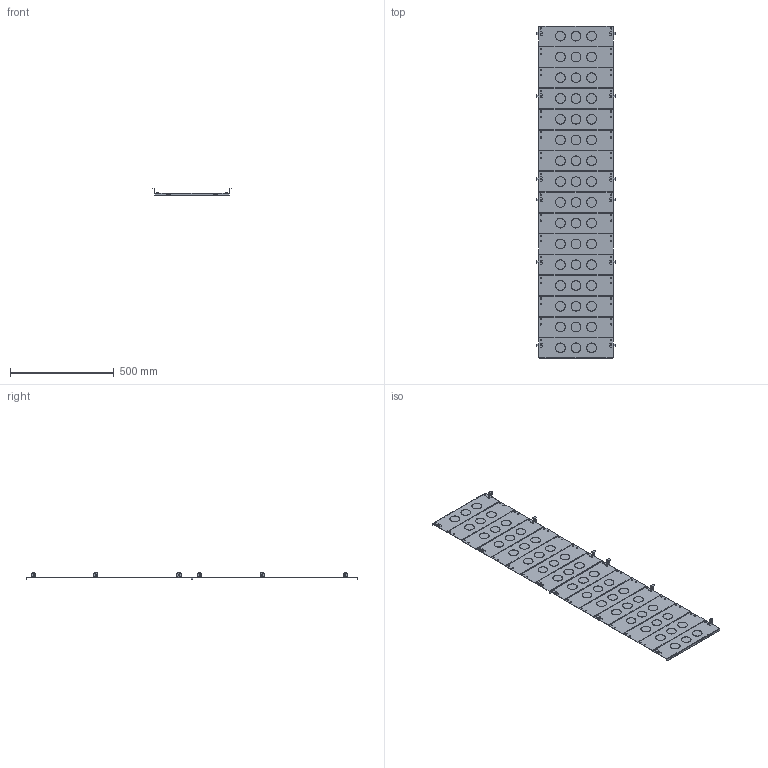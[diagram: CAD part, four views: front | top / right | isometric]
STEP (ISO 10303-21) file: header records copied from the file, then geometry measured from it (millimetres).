
FILE_DESCRIPTION(('CAx-IF Rec.Pracs.---Model Styling and Organization---1.2---2011-12-15','CAx-IF Rec.Pracs.---Geometric and Assembly Validation Properties---4.1---2014-06-16','CAx-IF Rec.Pracs.---PMI Polyline Presentation---2.0---2013-05-24'),'2;1');
FILE_NAME('R5SBD2080.stp','2021-05-06T03:01:16+03:00',(''),(''),'STEP Interface 4.4 by CT CoreTechnologie','3D_Evolution4.4 by CT CoreTechnologie','');
FILE_SCHEMA(('AUTOMOTIVE_DESIGN { 1 0 10303 214 1 1 1 1 }'));
Length unit declared in the file: millimetre
Products named in the file (3): R5SBD2080; RB.0520.00.00.0; RB.0503.00.00.0_-03
Assembly tree (14 placements, depth 2):
  R5SBD2080
    RB.0520.00.00.0  x12
    RB.0503.00.00.0_-03  x2
Bounding box: 384 x 1598 x 33.5 mm (x, y, z)
Surface area: 1199015.4 mm2 (no closed solid volume)
Topology: 0 solids, 14 shells, 1612 faces, 4848 edges, 3248 vertices
Faces by surface type: plane 980, cylinder 632
Entity records: 23750 total; most frequent: CARTESIAN_POINT 4059, ORIENTED_EDGE 4048, DIRECTION 3958, EDGE_CURVE 2024, VECTOR 1472, LINE 1472, VERTEX_POINT 1344, AXIS2_PLACEMENT_3D 1243
